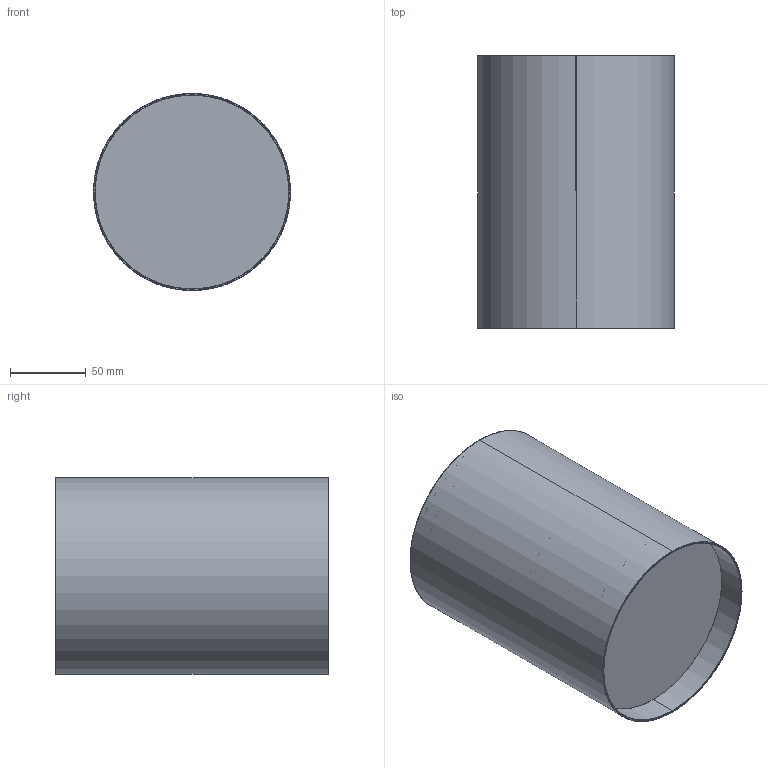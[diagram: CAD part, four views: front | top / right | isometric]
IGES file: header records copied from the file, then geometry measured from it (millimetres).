
Start section: SolidWorks IGES file using analytic representation for surfaces
Global section: file name: C:\Users\ppp\Desktop\Nowodvorski\Modele 3D_lampy\Point\3ds\Point_oprawa_GU10_18cm.IGS; native system: SolidWorks 2012; preprocessor: SolidWorks 2012; author: ppp; date: 150724.130330; units: millimetre
Bounding box: 130 x 180 x 130 mm (x, y, z)
Surface area: 199037.5 mm2 (no closed solid volume)
Topology: 0 solids, 0 shells, 74 faces, 1592 edges, 1586 vertices
Faces by surface type: bspline 42, revolution 32
